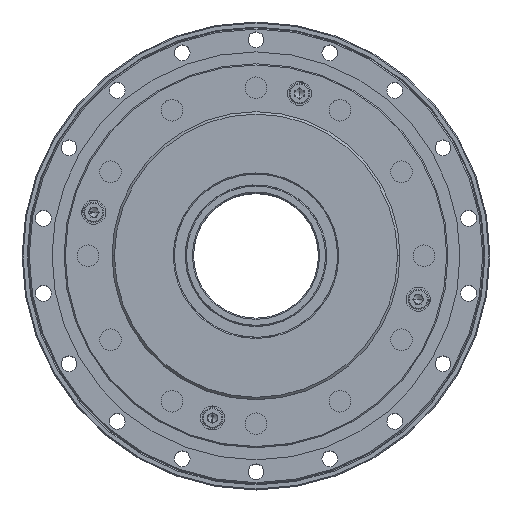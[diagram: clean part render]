
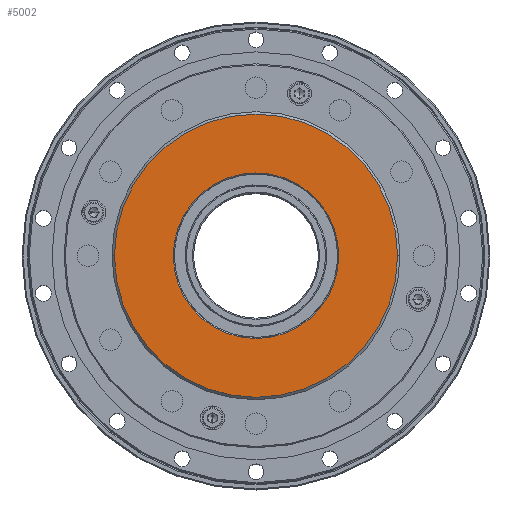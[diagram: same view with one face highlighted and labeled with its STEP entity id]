
A CAD part, top view. The second image highlights one B-rep face of the part: STEP entity #5002.
In plain terms, the highlighted planar face has unit normal (0, 0, 1).
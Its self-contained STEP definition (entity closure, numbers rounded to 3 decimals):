
#139 = CARTESIAN_POINT ( 'NONE',  ( 2.171, -8.957, 240.5 ) ) ;
#227 = EDGE_LOOP ( 'NONE', ( #5083, #4942 ) ) ;
#447 = ORIENTED_EDGE ( 'NONE', *, *, #5133, .T. ) ;
#998 = EDGE_CURVE ( 'NONE', #7861, #5324, #5219, .T. ) ;
#1837 = AXIS2_PLACEMENT_3D ( 'NONE', #2160, #2109, #1942 ) ;
#1872 = EDGE_CURVE ( 'NONE', #8625, #6864, #8389, .T. ) ;
#1942 = DIRECTION ( 'NONE',  ( -1., 0., 0. ) ) ;
#2109 = DIRECTION ( 'NONE',  ( 0., 0., -1. ) ) ;
#2160 = CARTESIAN_POINT ( 'NONE',  ( 2.171, -8.957, 240.5 ) ) ;
#3007 = DIRECTION ( 'NONE',  ( -1., 0., 0. ) ) ;
#3377 = DIRECTION ( 'NONE',  ( -1., 0., 0. ) ) ;
#3530 = AXIS2_PLACEMENT_3D ( 'NONE', #6486, #3948, #3800 ) ;
#3800 = DIRECTION ( 'NONE',  ( -1., 0., 0. ) ) ;
#3922 = PLANE ( 'NONE',  #3530 ) ;
#3948 = DIRECTION ( 'NONE',  ( 0., 0., -1. ) ) ;
#4283 = ORIENTED_EDGE ( 'NONE', *, *, #1872, .T. ) ;
#4716 = CARTESIAN_POINT ( 'NONE',  ( -32.329, -8.957, 240.5 ) ) ;
#4805 = DIRECTION ( 'NONE',  ( -1., 0., 0. ) ) ;
#4942 = ORIENTED_EDGE ( 'NONE', *, *, #998, .T. ) ;
#5002 = ADVANCED_FACE ( 'NONE', ( #8566, #8439 ), #3922, .F. ) ;
#5083 = ORIENTED_EDGE ( 'NONE', *, *, #6967, .T. ) ;
#5133 = EDGE_CURVE ( 'NONE', #6864, #8625, #6649, .T. ) ;
#5160 = CARTESIAN_POINT ( 'NONE',  ( 61.171, -8.957, 240.5 ) ) ;
#5219 = CIRCLE ( 'NONE', #6093, 59. ) ;
#5266 = DIRECTION ( 'NONE',  ( 0., 0., 1. ) ) ;
#5324 = VERTEX_POINT ( 'NONE', #6622 ) ;
#6093 = AXIS2_PLACEMENT_3D ( 'NONE', #139, #5266, #3007 ) ;
#6486 = CARTESIAN_POINT ( 'NONE',  ( 2.171, 51.043, 240.5 ) ) ;
#6622 = CARTESIAN_POINT ( 'NONE',  ( -56.829, -8.957, 240.5 ) ) ;
#6649 = CIRCLE ( 'NONE', #8453, 34.5 ) ;
#6864 = VERTEX_POINT ( 'NONE', #4716 ) ;
#6967 = EDGE_CURVE ( 'NONE', #5324, #7861, #7289, .T. ) ;
#7289 = CIRCLE ( 'NONE', #8423, 59. ) ;
#7374 = DIRECTION ( 'NONE',  ( 0., 0., 1. ) ) ;
#7843 = CARTESIAN_POINT ( 'NONE',  ( 2.171, -8.957, 240.5 ) ) ;
#7861 = VERTEX_POINT ( 'NONE', #5160 ) ;
#7921 = DIRECTION ( 'NONE',  ( 0., 0., -1. ) ) ;
#8389 = CIRCLE ( 'NONE', #1837, 34.5 ) ;
#8423 = AXIS2_PLACEMENT_3D ( 'NONE', #8430, #7374, #3377 ) ;
#8430 = CARTESIAN_POINT ( 'NONE',  ( 2.171, -8.957, 240.5 ) ) ;
#8439 = FACE_BOUND ( 'NONE', #8981, .T. ) ;
#8453 = AXIS2_PLACEMENT_3D ( 'NONE', #7843, #7921, #4805 ) ;
#8566 = FACE_OUTER_BOUND ( 'NONE', #227, .T. ) ;
#8625 = VERTEX_POINT ( 'NONE', #10380 ) ;
#8981 = EDGE_LOOP ( 'NONE', ( #4283, #447 ) ) ;
#10380 = CARTESIAN_POINT ( 'NONE',  ( 36.671, -8.957, 240.5 ) ) ;
